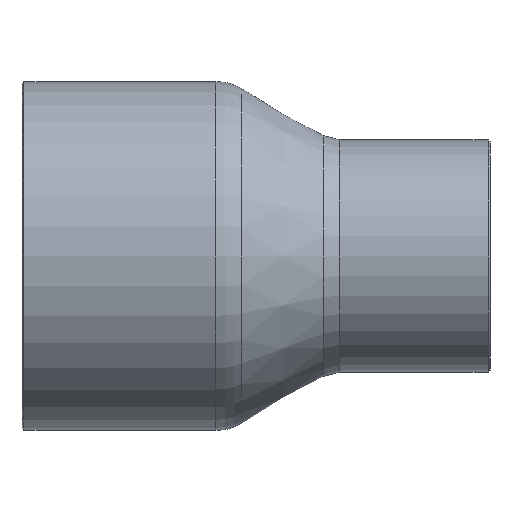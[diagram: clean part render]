
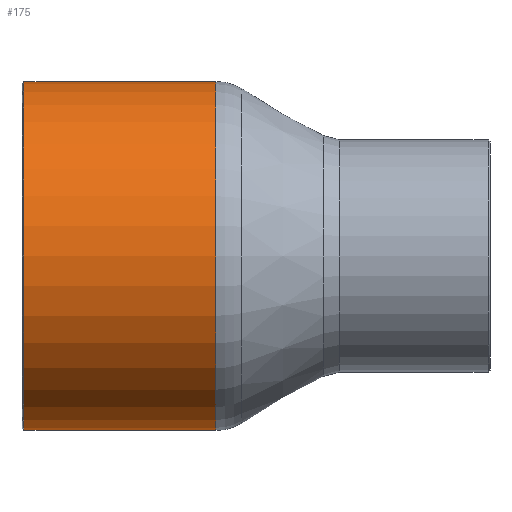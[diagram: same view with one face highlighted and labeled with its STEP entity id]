
A CAD part, front view. The second image highlights one B-rep face of the part: STEP entity #175.
In plain terms, the highlighted cylindrical face has radius 26.985 mm (diameter 53.97 mm), a full revolution.
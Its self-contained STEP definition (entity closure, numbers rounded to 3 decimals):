
#144=CARTESIAN_POINT('',(-52.7,26.985,0.));
#145=VERTEX_POINT('',#144);
#146=CARTESIAN_POINT('',(-52.7,0.0,0.0));
#147=DIRECTION('',(-1.0,0.0,0.0));
#148=DIRECTION('',(0.0,-1.0,0.0));
#149=AXIS2_PLACEMENT_3D('',#146,#147,#148);
#150=CIRCLE('',#149,26.985);
#151=EDGE_CURVE('',#145,#145,#150,.T.);
#156=CARTESIAN_POINT('',(-38.,0.0,0.0));
#157=DIRECTION('',(1.0,0.0,0.0));
#158=DIRECTION('',(0.0,1.0,0.0));
#159=AXIS2_PLACEMENT_3D('',#156,#157,#158);
#160=CYLINDRICAL_SURFACE('',#159,26.985);
#161=CARTESIAN_POINT('',(-23.,26.985,0.0));
#162=VERTEX_POINT('',#161);
#163=CARTESIAN_POINT('',(-23.,0.0,0.0));
#164=DIRECTION('',(1.0,0.0,0.0));
#165=DIRECTION('',(0.0,1.0,0.0));
#166=AXIS2_PLACEMENT_3D('',#163,#164,#165);
#167=CIRCLE('',#166,26.985);
#168=EDGE_CURVE('',#162,#162,#167,.T.);
#169=ORIENTED_EDGE('',*,*,#168,.F.);
#170=EDGE_LOOP('',(#169));
#171=FACE_OUTER_BOUND('',#170,.T.);
#172=ORIENTED_EDGE('',*,*,#151,.F.);
#173=EDGE_LOOP('',(#172));
#174=FACE_BOUND('',#173,.T.);
#175=ADVANCED_FACE('',(#171,#174),#160,.T.);
